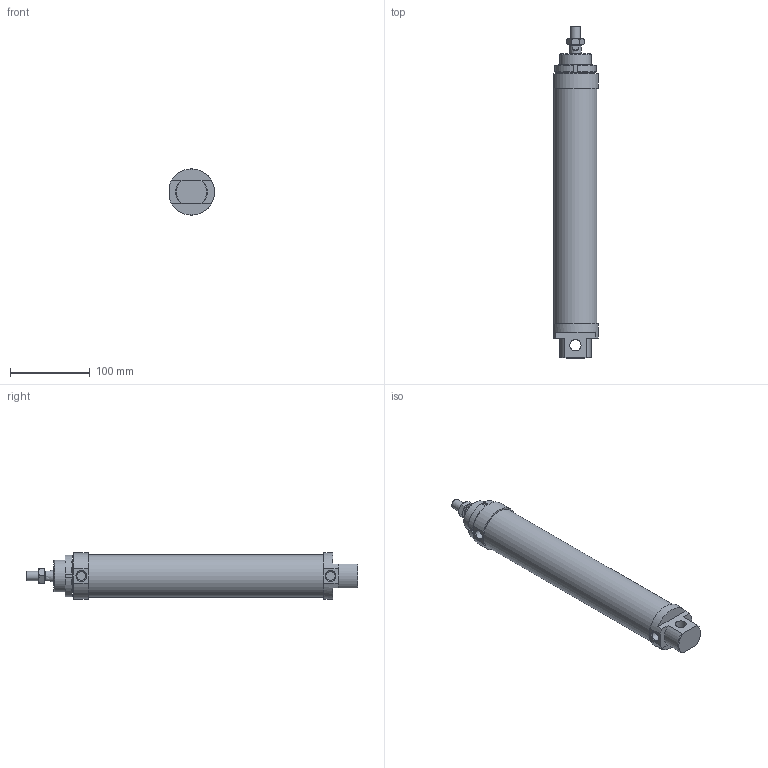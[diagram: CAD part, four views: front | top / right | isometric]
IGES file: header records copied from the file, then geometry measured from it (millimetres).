
Global section: file name: No Iges File Name specified; native system: AutoDesk Inventor R6.0; preprocessor: AutoDesk Inventor Iges Exporter R6.0; author: No Author specified; organization: No Organization specified; date: 20030402.145017; units: millimetre
Bounding box: 56.51 x 417 x 58 mm (x, y, z)
Surface area: 103407.7 mm2 (no closed solid volume)
Topology: 0 solids, 0 shells, 94 faces, 413 edges, 395 vertices
Faces by surface type: plane 44, revolution 39, bspline 11
